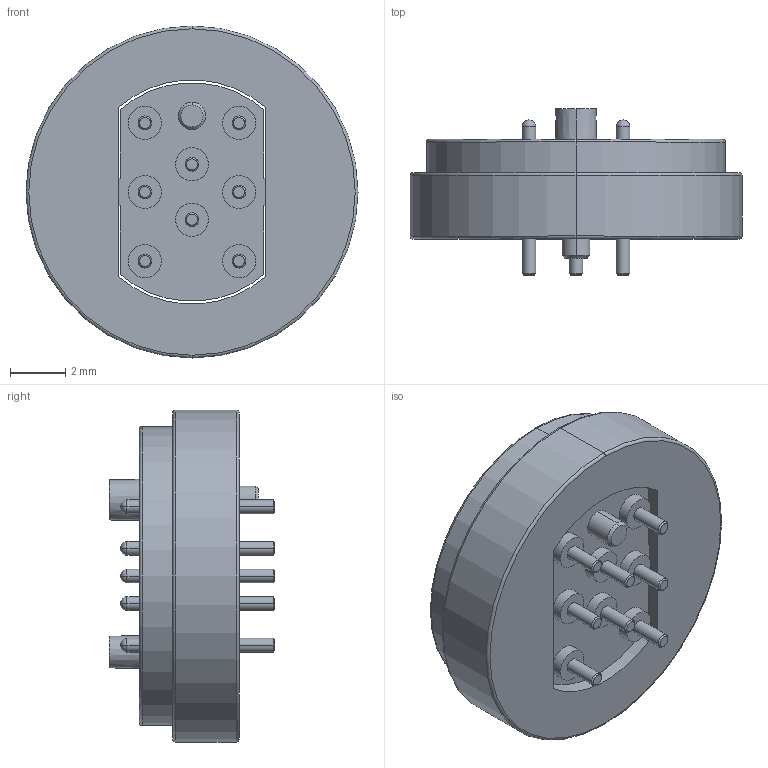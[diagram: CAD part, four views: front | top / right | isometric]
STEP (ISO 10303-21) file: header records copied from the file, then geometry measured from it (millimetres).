
FILE_DESCRIPTION((''),'2;1');
FILE_NAME('NC3526-08PA_ASM','2022-05-28T08:37:19',('Alfred You'),(''),'CREO PARAMETRIC BY PTC INC, 2018050','CREO PARAMETRIC BY PTC INC, 2018050','');
FILE_SCHEMA(('CONFIG_CONTROL_DESIGN'));
Length unit declared in the file: millimetre
Products named in the file (4): H3526-08250B; POGOPIN; S3526-0199B; NC3526-08PA_ASM
Assembly tree (10 placements, depth 2):
  NC3526-08PA_ASM
    H3526-08250B
    POGOPIN  x8
    S3526-0199B
Bounding box: 12 x 6 x 12 mm (x, y, z)
Volume: 370 mm3; surface area: 721.4 mm2
Topology: 10 solids, 10 shells, 258 faces, 542 edges, 324 vertices
Faces by surface type: cylinder 122, plane 60, cone 38, torus 22, sphere 16
Entity records: 2574 total; most frequent: DIRECTION 490, CARTESIAN_POINT 408, ORIENTED_EDGE 380, AXIS2_PLACEMENT_3D 203, EDGE_CURVE 190, VERTEX_POINT 121, EDGE_LOOP 109, CIRCLE 106
